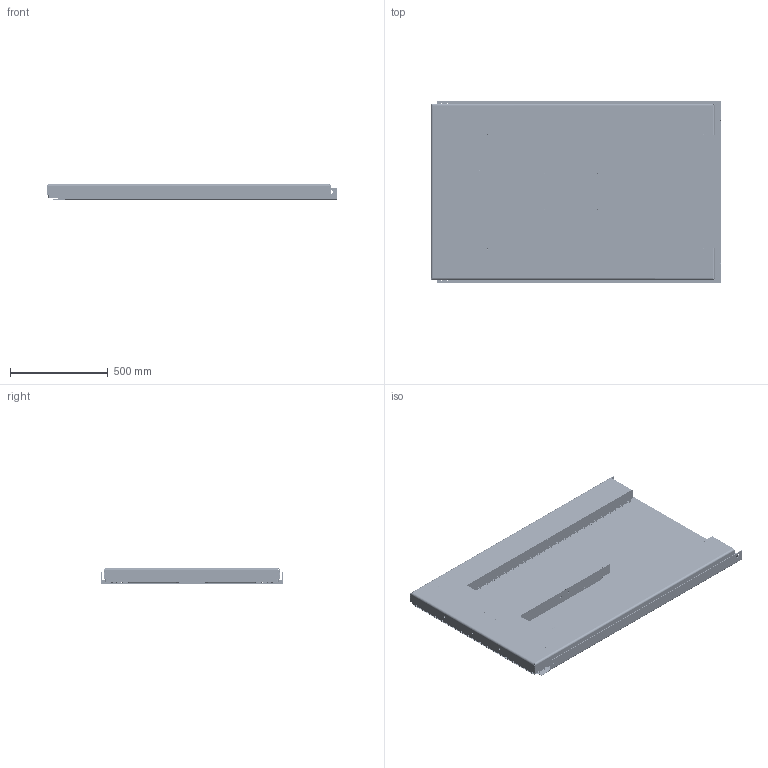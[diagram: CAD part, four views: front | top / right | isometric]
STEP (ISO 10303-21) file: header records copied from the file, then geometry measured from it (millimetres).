
FILE_DESCRIPTION(/* description */ ('TUB 600 H 1450x900'),/* implementation_level */ '2;1');
FILE_NAME(/* name */ 'C:\Autodesk_VaultWork\Ritningar\Exporterade modeller\TUB 600H - (33255)\33255_Closed-Height.stp',/* time_stamp */ '2017-02-07T08:55:18+01:00',/* author */ ('HANVI'),/* organization */ (''),/* preprocessor_version */ 'ST-DEVELOPER v16.5',/* originating_system */ 'Autodesk Inventor 2017',/* authorisation */ '');
FILE_SCHEMA (('AUTOMOTIVE_DESIGN { 1 0 10303 214 3 1 1 }'));
Products named in the file (76): 33255; 33247; 35887; 42974; 43469C; 517432; 33252C; 82170-1245; 43944C; 517434; 517433; 43342C; 517431; 43948C; 80030 - 236; 517441; 517435; 517435-1; 42947; 517439; 43959; 43921; 33253C; 33253C-1; 42949C; 69020; 42513; 42642; 70020; 70015; 42956; 33248; 33248-1; 33248-4; 44572; 33248-6-V; 33248-6; 44034; 33248-7; 45087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
Assembly tree (209 placements, depth 5):
  33255
    33247
      35887
      42974  x4
      43469C  x2
    517432
      33252C  x2
        82170-1245
      43944C  x2
      517434  x2
      517433
      43342C  x2
      517431
      43948C
      80030 - 236  x2
    517441
      517435
        517435-1
        42947  x2
        517439
        43959
      43921
    33253C  x2
      33253C-1
      42949C
    69020  x2
    42513  x8
    42642  x2
    70020  x2
    70015  x12
    42956  x2
    33248
      33248-1
      33248-4  x8
      84207  x8
      44572  x4
      45087  x4
      33248-6-V
      33248-6
      44034
      33248-7  x2
    42584  x4
    33257
      44510  x6
      42330  x8
      43056-1420  x2
      43056-132  x2
      43056-870
      43481  x8
      43056-1170  x2
      33990  x3
        33991
        44283
        44280
        44279
        Compression-Spring-SF-TF1272-SS1774-04-Lesjofors-STEP
        ISO 7089 - 5 - 140 HV
        84253
        44281
          44281-1
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Bounding box: 1482.99 x 930 x 80.1 mm (x, y, z)
Volume: 20079117.5 mm3; surface area: 9412341.7 mm2
Topology: 242 solids, 242 shells, 8864 faces, 23376 edges, 15270 vertices
Faces by surface type: plane 4531, cylinder 2878, bspline 887, cone 463, torus 105
Full cylindrical faces by diameter (mm): 0.474 x3, 1 x6, 3 x6, 3.141 x6, 3.2 x6, 3.242 x6, 4 x21, 4.3 x6, 4.445 x6, 4.7 x4, 4.9 x3, 5 x6, 5.156 x6, 5.2 x9, 5.3 x6, 5.969 x6, 6 x8, 7.4 x1, 7.6 x6, 8 x9, 8.376 x16, 8.5 x8, 8.88 x8, 9.4 x4, 10 x37, 10.1 x2, 10.106 x2, 10.5 x39, 11 x17, 12 x10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
Entity records: 109960 total; most frequent: CARTESIAN_POINT 28086, ORIENTED_EDGE 16680, DIRECTION 16274, EDGE_CURVE 8339, VERTEX_POINT 5588, AXIS2_PLACEMENT_3D 5490, LINE 5294, VECTOR 5294
